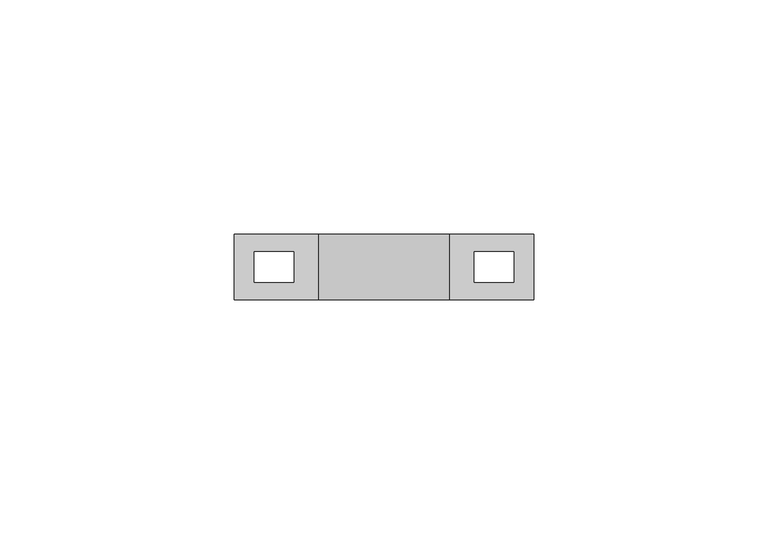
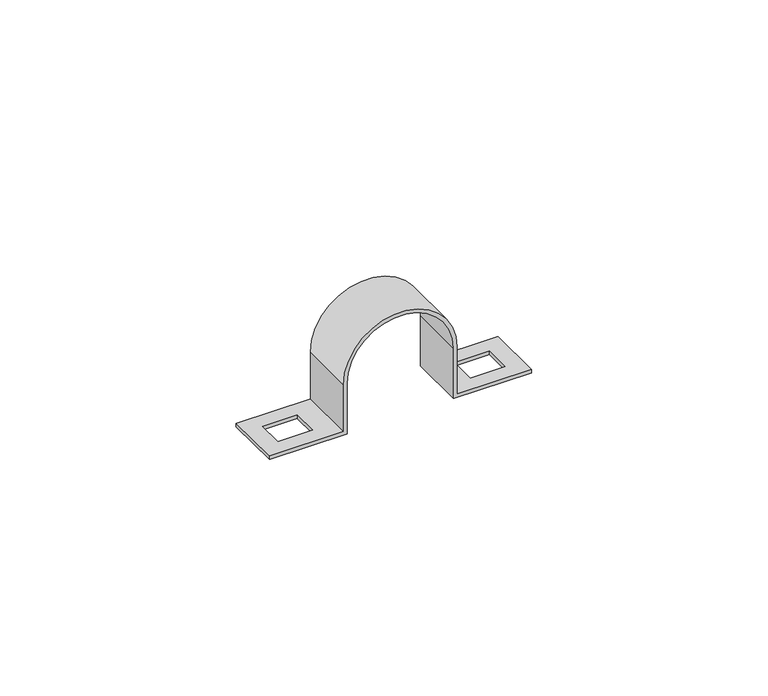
"""IFC4 building model written with IfcOpenShell, lengths in millimetres: cable carrier fitting geometry."""

from ifc_helpers import new_model, si_unit, frame, origin, place, context, project, spatial, polyline, circle_curve, source, transform, mapped, element, save
from ifc_brep_helpers import plane_surface, cylinder_surface, revolved_surface, advanced_brep


def cable_carrier_fitting_ea1286eb(model_context):
    return source(origin(), model_context, "Body", "AdvancedBrep", [
        advanced_brep(
        [(32.0, -7.0, 0.0), (32.0, -7.0, 0.9), (13.9, -7.0, 0.9), (13.9, -7.0, 13.0), (-13.9, -7.0, 13.0), (-13.9, -7.0, 0.9), (-32.0, -7.0, 0.9), (-32.0, -7.0, 0.0), (-13.0, -7.0, 0.0), (-13.0, -7.0, 13.0), (13.0, -7.0, 13.0), (13.0, -7.0, 0.0), (32.0, 7.0, 0.0), (13.0, 7.0, 0.0), (13.0, 7.0, 13.0), (-13.0, 7.0, 13.0), (-13.0, 7.0, 0.0), (-32.0, 7.0, 0.0), (-32.0, 7.0, 0.9), (-13.9, 7.0, 0.9), (-13.9, 7.0, 13.0), (13.9, 7.0, 13.0), (13.9, 7.0, 0.9), (32.0, 7.0, 0.9), (27.75, -3.25, 0.9), (19.25, -3.25, 0.9), (19.25, 3.25, 0.9), (27.75, 3.25, 0.9), (-27.75, 3.25, 0.9), (-19.25, 3.25, 0.9), (-19.25, -3.25, 0.9), (-27.75, -3.25, 0.9), (-19.25, 3.25, 0.0), (-27.75, 3.25, 0.0), (-27.75, -3.25, 0.0), (-19.25, -3.25, 0.0), (19.25, -3.25, 0.0), (27.75, -3.25, 0.0), (27.75, 3.25, 0.0), (19.25, 3.25, 0.0)],
        [
            (0, 1),
            (1, 2),
            (2, 3),
            (3, 4, circle_curve(frame((0.0, -7.0, 13.0), z_axis=(0.0, -1.0, 0.0), x_axis=(1.0, 0.0, 0.0)), 13.9)),
            (4, 5),
            (5, 6),
            (6, 7),
            (7, 8),
            (8, 9),
            (9, 10, circle_curve(frame((0.0, -7.0, 13.0), z_axis=(0.0, 1.0, 0.0), x_axis=(1.0, 0.0, 0.0)), 13.0)),
            (10, 11),
            (11, 0),
            (12, 13),
            (13, 14),
            (14, 15, circle_curve(frame((0.0, 7.0, 13.0), z_axis=(0.0, -1.0, 0.0), x_axis=(1.0, 0.0, 0.0)), 13.0)),
            (15, 16),
            (16, 17),
            (17, 18),
            (18, 19),
            (19, 20),
            (20, 21, circle_curve(frame((0.0, 7.0, 13.0), z_axis=(0.0, 1.0, 0.0), x_axis=(1.0, 0.0, 0.0)), 13.9)),
            (21, 22),
            (22, 23),
            (23, 12),
            (0, 12),
            (23, 1),
            (22, 2),
            (24, 25),
            (25, 26),
            (26, 27),
            (27, 24),
            (21, 3),
            (20, 4),
            (19, 5),
            (18, 6),
            (28, 29),
            (29, 30),
            (30, 31),
            (31, 28),
            (17, 7),
            (16, 8),
            (32, 33),
            (33, 34),
            (34, 35),
            (35, 32),
            (15, 9),
            (14, 10),
            (13, 11),
            (36, 37),
            (37, 38),
            (38, 39),
            (39, 36),
            (32, 29),
            (28, 33),
            (31, 34),
            (30, 35),
            (36, 25),
            (24, 37),
            (27, 38),
            (26, 39),
        ],
        [
            plane_surface(frame((32.0, -7.0, 0.9), z_axis=(0.0, -1.0, 0.0), x_axis=(0.0, 0.0, 1.0))),
            plane_surface(frame((32.0, 7.0, 0.9), z_axis=(0.0, 1.0, 0.0), x_axis=(0.0, 0.0, -1.0))),
            plane_surface(frame((32.0, -7.0, 0.0), z_axis=(1.0, 0.0, 0.0), x_axis=(0.0, 1.0, 0.0))),
            plane_surface(frame((32.0, -7.0, 0.9), z_axis=(0.0, 0.0, 1.0), x_axis=(0.0, 1.0, 0.0))),
            plane_surface(frame((13.9, -7.0, 0.9), z_axis=(1.0, 0.0, 0.0), x_axis=(0.0, 1.0, 0.0))),
            cylinder_surface(frame((0.0, 7.0, 13.0), z_axis=(0.0, -1.0, 0.0), x_axis=(1.0, 0.0, 0.0)), 13.9),
            plane_surface(frame((-13.9, -7.0, 13.0), z_axis=(-1.0, 0.0, 0.0), x_axis=(0.0, 1.0, 0.0))),
            plane_surface(frame((-13.9, -7.0, 0.9), z_axis=(0.0, 0.0, 1.0), x_axis=(0.0, 1.0, 0.0))),
            plane_surface(frame((-32.0, -7.0, 0.9), z_axis=(-1.0, 0.0, 0.0), x_axis=(0.0, 1.0, 0.0))),
            plane_surface(frame((-32.0, -7.0, 0.0), z_axis=(0.0, 0.0, -1.0), x_axis=(0.0, 1.0, 0.0))),
            plane_surface(frame((-13.0, -7.0, 0.0), z_axis=(1.0, 0.0, 0.0), x_axis=(0.0, 1.0, 0.0))),
            revolved_surface(polyline([(13.0, 7.0, 13.0), (13.0, -7.0, 13.0)]), (0.0, 7.0, 13.0), (0.0, 1.0, 0.0)),
            plane_surface(frame((13.0, -7.0, 13.0), z_axis=(-1.0, 0.0, 0.0), x_axis=(0.0, 1.0, 0.0))),
            plane_surface(frame((13.0, -7.0, 0.0), z_axis=(0.0, 0.0, -1.0), x_axis=(0.0, 1.0, 0.0))),
            plane_surface(frame((-19.25, 3.25, 21.959409), z_axis=(0.0, -1.0, 0.0), x_axis=(0.0, 0.0, -1.0))),
            plane_surface(frame((-27.75, 3.25, 21.959409), z_axis=(1.0, 0.0, 0.0), x_axis=(0.0, 0.0, -1.0))),
            plane_surface(frame((-27.75, -3.25, 21.959409), z_axis=(0.0, 1.0, 0.0), x_axis=(0.0, 0.0, -1.0))),
            plane_surface(frame((-19.25, -3.25, 21.959409), z_axis=(-1.0, 0.0, 0.0), x_axis=(0.0, 0.0, -1.0))),
            plane_surface(frame((19.25, -3.25, 21.959409), z_axis=(0.0, 1.0, 0.0), x_axis=(0.0, 0.0, -1.0))),
            plane_surface(frame((27.75, -3.25, 21.959409), z_axis=(-1.0, 0.0, 0.0), x_axis=(0.0, 0.0, -1.0))),
            plane_surface(frame((27.75, 3.25, 21.959409), z_axis=(0.0, -1.0, 0.0), x_axis=(0.0, 0.0, -1.0))),
            plane_surface(frame((19.25, 3.25, 21.959409), z_axis=(1.0, 0.0, 0.0), x_axis=(0.0, 0.0, -1.0))),
        ],
        [
            (0, [[1, 2, 3, 4, 5, 6, 7, 8, 9, 10, 11, 12]]),
            (1, [[13, 14, 15, 16, 17, 18, 19, 20, 21, 22, 23, 24]]),
            (2, [[-1, 25, -24, 26]]),
            (3, [[-2, -26, -23, 27], [28, 29, 30, 31]]),
            (4, [[-3, -27, -22, 32]]),
            (5, [[-4, -32, -21, 33]]),
            (6, [[-5, -33, -20, 34]]),
            (7, [[-6, -34, -19, 35], [36, 37, 38, 39]]),
            (8, [[-7, -35, -18, 40]]),
            (9, [[-8, -40, -17, 41], [42, 43, 44, 45]]),
            (10, [[-9, -41, -16, 46]]),
            (11, [[-10, -46, -15, 47]]),
            (12, [[-11, -47, -14, 48]]),
            (13, [[-12, -48, -13, -25], [49, 50, 51, 52]]),
            (14, [[53, -36, 54, -42]]),
            (15, [[-54, -39, 55, -43]]),
            (16, [[-55, -38, 56, -44]]),
            (17, [[-53, -45, -56, -37]]),
            (18, [[57, -28, 58, -49]]),
            (19, [[-58, -31, 59, -50]]),
            (20, [[-59, -30, 60, -51]]),
            (21, [[-57, -52, -60, -29]]),
        ],
    ),
    ])


if __name__ == "__main__":
    model = new_model("IFC4")
    model_context = context("Model", 3, world=origin())
    ifc_project = project(units=[si_unit("LENGTHUNIT", "METRE", prefix="MILLI")], contexts=[model_context])
    site = spatial("IfcSite", under=ifc_project)
    building = spatial("IfcBuilding", under=site)
    placement = place(None, origin())
    cable_carrier_fitting_shape = cable_carrier_fitting_ea1286eb(model_context)
    element("IfcCableCarrierFitting", 1, at=placement, inside=building, context=model_context, shape_type="MappedRepresentation", body=[
        mapped(cable_carrier_fitting_shape, transform((0.0, 0.0, 0.0), x_axis=(1.0, 0.0, 0.0), y_axis=(0.0, 1.0, 0.0), z_axis=(0.0, 0.0, 1.0))),
    ])
    save(model, "model.ifc")
